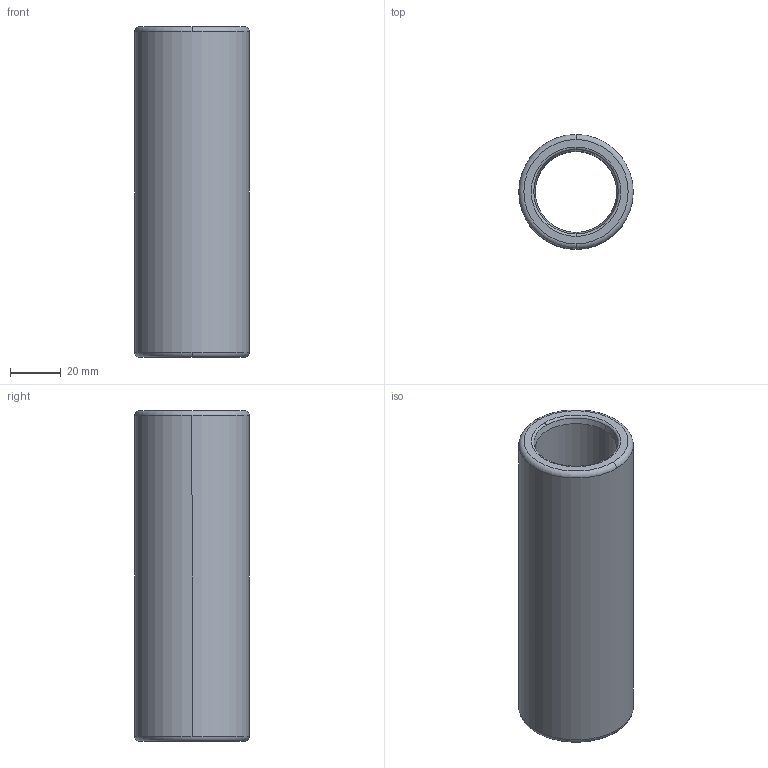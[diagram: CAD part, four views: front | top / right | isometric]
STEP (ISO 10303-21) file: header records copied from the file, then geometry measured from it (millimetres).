
FILE_DESCRIPTION((''),'2;1');
FILE_NAME('B30_024_130.stp','2009-01-12T09:57:57',(''),(''),'Mechanical Desktop 2009','Mechanical Desktop 2009',', , ');
FILE_SCHEMA(('CONFIG_CONTROL_DESIGN'));
Length unit declared in the file: millimetre
Products named in the file (2): Product; blmdl1
Assembly tree (1 placements, depth 2):
  Product
    blmdl1
Bounding box: 44.99 x 44.99 x 130 mm (x, y, z)
Volume: 101810.8 mm3; surface area: 32579.2 mm2
Topology: 1 solids, 1 shells, 18 faces, 48 edges, 32 vertices
Faces by surface type: torus 8, cylinder 4, cone 4, plane 2
Entity records: 705 total; most frequent: DIRECTION 128, CARTESIAN_POINT 100, ORIENTED_EDGE 96, AXIS2_PLACEMENT_3D 60, EDGE_CURVE 48, CIRCLE 40, VERTEX_POINT 32, EDGE_LOOP 20
